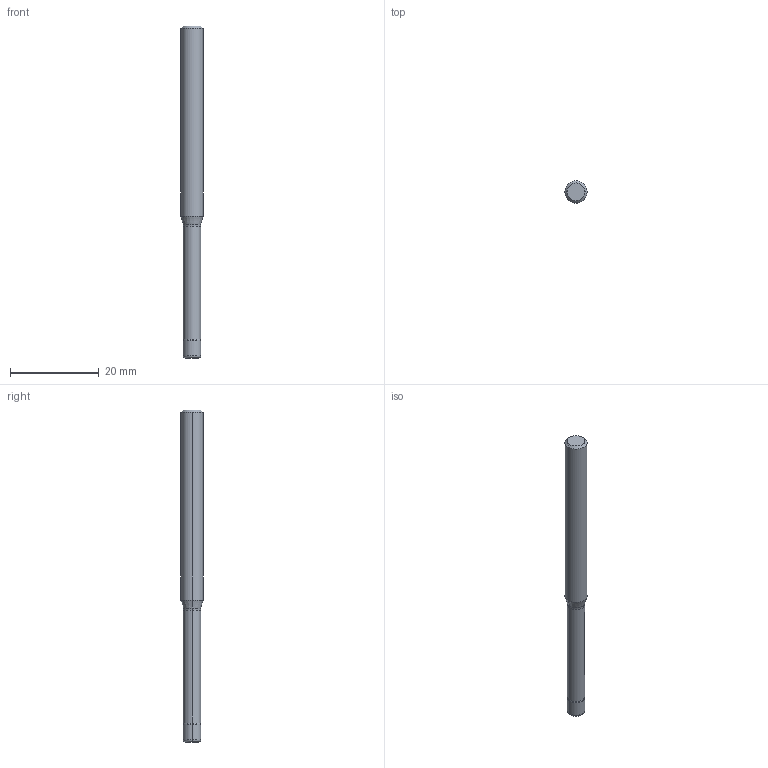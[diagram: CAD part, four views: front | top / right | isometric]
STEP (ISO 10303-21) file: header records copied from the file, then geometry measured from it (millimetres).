
FILE_DESCRIPTION (( 'STEP AP214' ), '1' );
FILE_NAME ('565.403.75_3D-model.step', '2022-02-18T18:32:04', ( '' ), ( '' ), 'SwSTEP 2.0', 'SolidWorks 2020', '' );
FILE_SCHEMA (( 'AUTOMOTIVE_DESIGN' ));
Length unit declared in the file: millimetre
Products named in the file (3): CUT-3D^Baugr154; NOCUT-3D^Baugr154; 565.403.75_3D-model
Assembly tree (2 placements, depth 2):
  565.403.75_3D-model
    CUT-3D^Baugr154
    NOCUT-3D^Baugr154
Bounding box: 5 x 5 x 75 mm (x, y, z)
Volume: 1233.9 mm3; surface area: 1122.8 mm2
Topology: 2 solids, 2 shells, 20 faces, 36 edges, 20 vertices
Faces by surface type: cylinder 6, cone 6, torus 4, plane 4
Entity records: 610 total; most frequent: DIRECTION 116, CARTESIAN_POINT 84, ORIENTED_EDGE 72, AXIS2_PLACEMENT_3D 52, EDGE_CURVE 36, CIRCLE 24, VERTEX_POINT 20, ADVANCED_FACE 20
